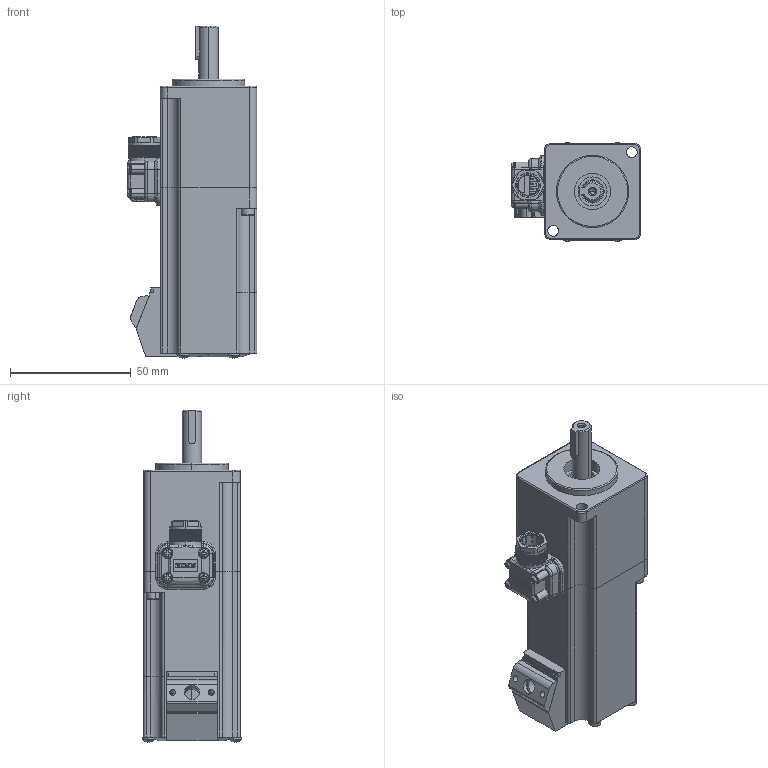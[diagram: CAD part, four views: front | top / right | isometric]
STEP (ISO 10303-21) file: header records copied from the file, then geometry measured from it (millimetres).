
FILE_DESCRIPTION (( 'STEP AP203' ), '1' );
FILE_NAME ('BMR-Z01B04030-湍惕掅.STEP', '2024-03-12T06:58:15', ( 'lvbing' ), ( 'WG' ), 'SwSTEP 2.0', 'SolidWorks 2018', '' );
FILE_SCHEMA (( 'CONFIG_CONTROL_DESIGN' ));
Products named in the file (2): BMR-Z01B04030-湍惕掅
Bounding box: 53.71 x 41 x 137.57 mm (x, y, z)
Surface area: 36229.4 mm2 (no closed solid volume)
Topology: 0 solids, 73 shells, 2123 faces, 6011 edges, 3995 vertices
Faces by surface type: bspline 1740, plane 184, cylinder 148, cone 29, torus 14, sphere 8
Entity records: 86840 total; most frequent: CARTESIAN_POINT 44135, ORIENTED_EDGE 11850, EDGE_CURVE 5985, VERTEX_POINT 3995, DIRECTION 3921, B_SPLINE_CURVE_WITH_KNOTS 2895, EDGE_LOOP 2230, ADVANCED_FACE 2123
